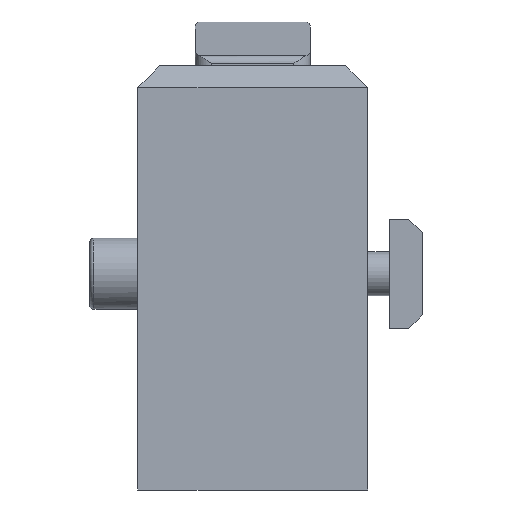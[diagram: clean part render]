
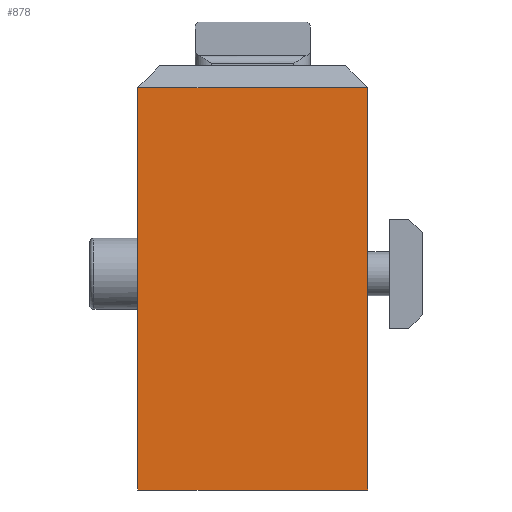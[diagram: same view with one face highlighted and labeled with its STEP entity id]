
A CAD part, left-side view. The second image highlights one B-rep face of the part: STEP entity #878.
In plain terms, the highlighted planar face has unit normal (-1, 0, 0).
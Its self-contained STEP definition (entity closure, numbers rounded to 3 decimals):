
#99=FACE_OUTER_BOUND('',#168,.T.);
#168=EDGE_LOOP('',(#614,#615,#616,#617));
#220=LINE('',#1259,#295);
#222=LINE('',#1268,#297);
#239=LINE('',#1375,#314);
#240=LINE('',#1377,#315);
#295=VECTOR('',#1012,73.5);
#297=VECTOR('',#1020,73.5);
#314=VECTOR('',#1089,42.);
#315=VECTOR('',#1092,42.);
#370=VERTEX_POINT('',#1256);
#371=VERTEX_POINT('',#1258);
#374=VERTEX_POINT('',#1266);
#375=VERTEX_POINT('',#1267);
#448=EDGE_CURVE('',#371,#370,#220,.T.);
#452=EDGE_CURVE('',#374,#375,#222,.T.);
#487=EDGE_CURVE('',#374,#371,#239,.T.);
#488=EDGE_CURVE('',#370,#375,#240,.T.);
#614=ORIENTED_EDGE('',*,*,#448,.T.);
#615=ORIENTED_EDGE('',*,*,#488,.T.);
#616=ORIENTED_EDGE('',*,*,#452,.F.);
#617=ORIENTED_EDGE('',*,*,#487,.T.);
#780=PLANE('',#952);
#878=ADVANCED_FACE('',(#99),#780,.F.);
#952=AXIS2_PLACEMENT_3D('',#1376,#1090,#1091);
#1012=DIRECTION('',(0.,0.,1.));
#1020=DIRECTION('',(0.,0.,1.));
#1089=DIRECTION('',(0.,-1.,0.));
#1090=DIRECTION('center_axis',(1.,0.,0.));
#1091=DIRECTION('ref_axis',(0.,1.,0.));
#1092=DIRECTION('',(0.,1.,0.));
#1256=CARTESIAN_POINT('',(0.,0.,73.5));
#1258=CARTESIAN_POINT('',(0.,0.,0.));
#1259=CARTESIAN_POINT('',(0.,0.,0.));
#1266=CARTESIAN_POINT('',(0.,42.,0.));
#1267=CARTESIAN_POINT('',(0.,42.,73.5));
#1268=CARTESIAN_POINT('',(0.,42.,0.));
#1375=CARTESIAN_POINT('',(0.,42.,0.));
#1376=CARTESIAN_POINT('Origin',(0.,42.,0.));
#1377=CARTESIAN_POINT('',(0.,0.,73.5));
